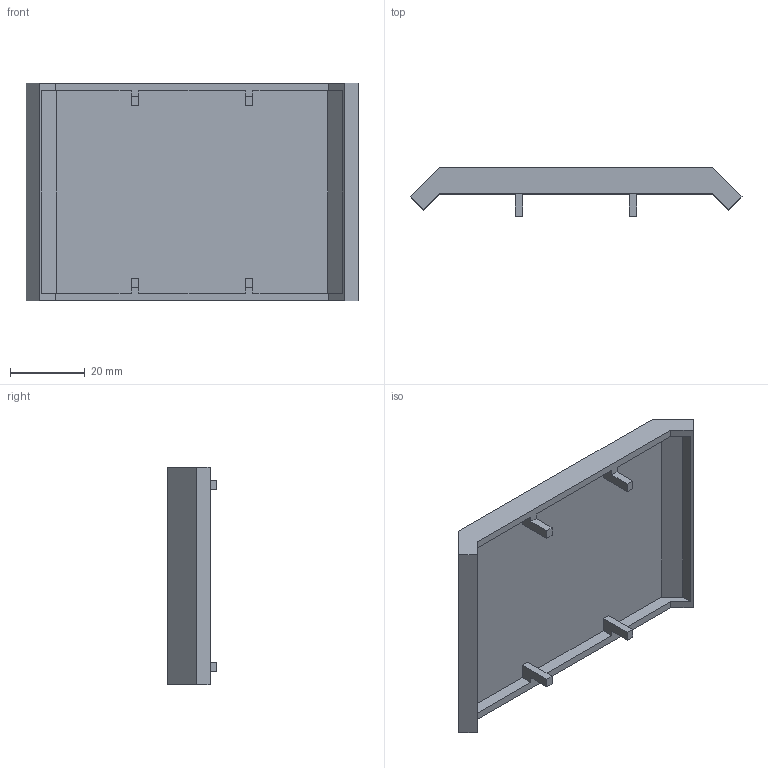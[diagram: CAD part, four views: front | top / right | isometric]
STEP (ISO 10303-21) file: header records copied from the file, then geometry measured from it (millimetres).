
FILE_DESCRIPTION (( 'STEP AP203' ), '1' );
FILE_NAME ('1067cap.STEP', '2016-04-09T14:34:23', ( '' ), ( '' ), 'SwSTEP 2.0', 'SolidWorks 2014', '' );
FILE_SCHEMA (( 'CONFIG_CONTROL_DESIGN' ));
Length unit declared in the file: millimetre
Products named in the file (1): 1067cap
Bounding box: 88.56 x 13 x 58 mm (x, y, z)
Volume: 20955.9 mm3; surface area: 13380.5 mm2
Topology: 1 solids, 1 shells, 42 faces, 120 edges, 80 vertices
Faces by surface type: plane 42
Entity records: 1421 total; most frequent: CARTESIAN_POINT 243, ORIENTED_EDGE 240, DIRECTION 206, LINE 120, VECTOR 120, EDGE_CURVE 120, VERTEX_POINT 80, AXIS2_PLACEMENT_3D 43
